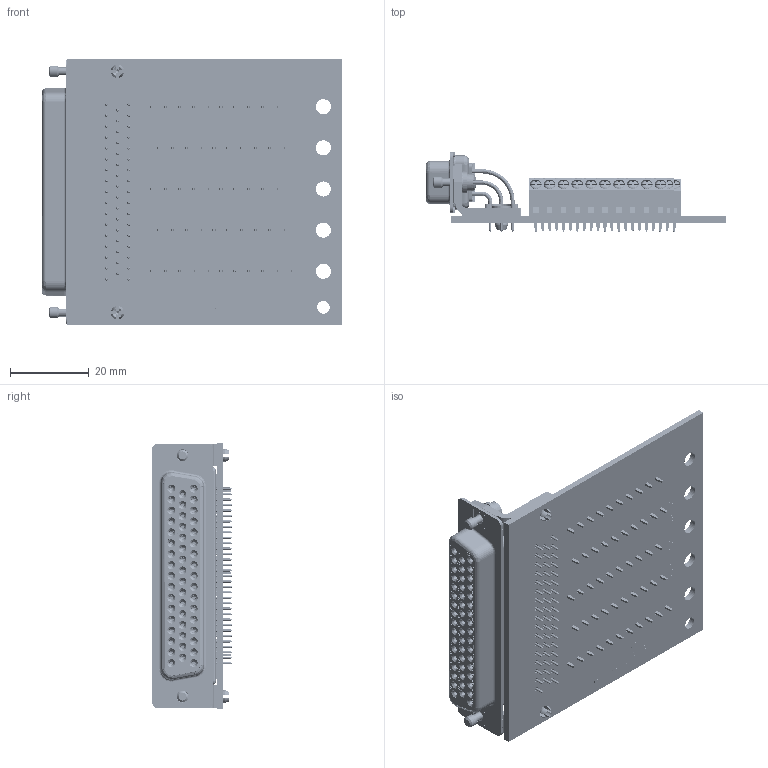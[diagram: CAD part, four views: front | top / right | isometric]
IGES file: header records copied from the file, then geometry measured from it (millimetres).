
Start section: SolidWorks IGES file using analytic representation for surfaces
Global section: file name: W:\end-user\products\brk\brksd\brksd50f\3dmodel\rev_a\render\brksd50f-c_rev_a.igs; native system: SolidWorks 2018; preprocessor: SolidWorks 2018; author: leviroy; date: 210213.072023; units: inch
Bounding box: 76.19 x 20.2 x 67.31 mm (x, y, z)
Surface area: 41536.3 mm2 (no closed solid volume)
Topology: 0 solids, 0 shells, 12985 faces, 116903 edges, 116683 vertices
Faces by surface type: bspline 10069, revolution 2916
